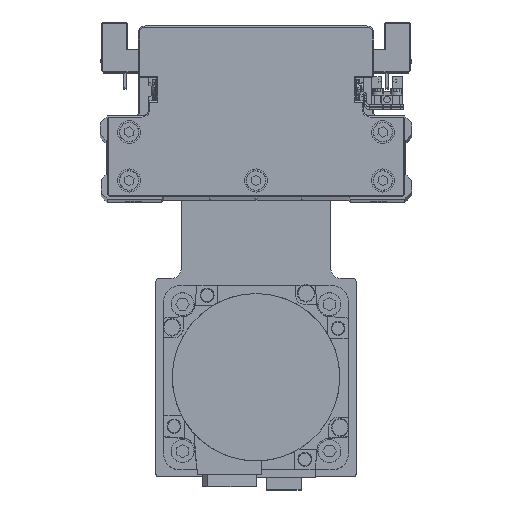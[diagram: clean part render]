
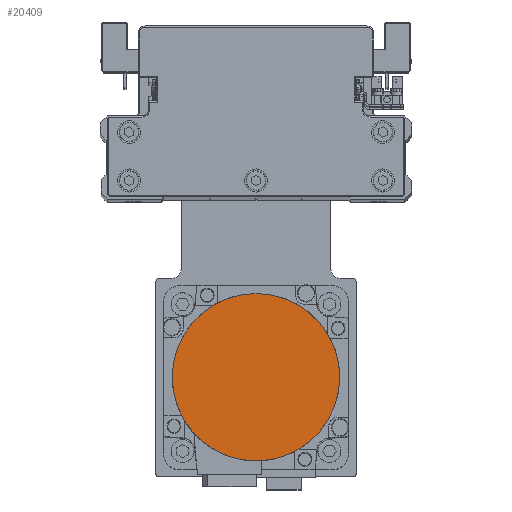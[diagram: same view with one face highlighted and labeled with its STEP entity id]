
A CAD part, top view. The second image highlights one B-rep face of the part: STEP entity #20409.
In plain terms, the highlighted planar face has unit normal (0, 0, 1) as drawn and (0, 0, -1) by its records, which use the part's own axes.
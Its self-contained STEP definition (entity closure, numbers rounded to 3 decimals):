
#7232 = CARTESIAN_POINT ( 'NONE',  ( 0., -36.3, -122.2 ) ) ;
#7710 = AXIS2_PLACEMENT_3D ( 'NONE', #14061, #26407, #38740 ) ;
#8034 = DIRECTION ( 'NONE',  ( 1., 0., 0. ) ) ;
#8897 = ORIENTED_EDGE ( 'NONE', *, *, #15991, .F. ) ;
#11066 = PLANE ( 'NONE',  #34840 ) ;
#12105 = DIRECTION ( 'NONE',  ( 0., 0., 1. ) ) ;
#14061 = CARTESIAN_POINT ( 'NONE',  ( 0., 0., -122.2 ) ) ;
#14749 = EDGE_LOOP ( 'NONE', ( #8897, #16316 ) ) ;
#15991 = EDGE_CURVE ( 'NONE', #30278, #25070, #39561, .T. ) ;
#16316 = ORIENTED_EDGE ( 'NONE', *, *, #38241, .F. ) ;
#20409 = ADVANCED_FACE ( 'NONE', ( #38783 ), #11066, .F. ) ;
#22087 = AXIS2_PLACEMENT_3D ( 'NONE', #39824, #12105, #24444 ) ;
#23406 = CARTESIAN_POINT ( 'NONE',  ( 0., 0., -122.2 ) ) ;
#24444 = DIRECTION ( 'NONE',  ( 0., 1., 0. ) ) ;
#25070 = VERTEX_POINT ( 'NONE', #7232 ) ;
#25178 = CIRCLE ( 'NONE', #7710, 36.3 ) ;
#26407 = DIRECTION ( 'NONE',  ( 0., 0., 1. ) ) ;
#30278 = VERTEX_POINT ( 'NONE', #34264 ) ;
#34264 = CARTESIAN_POINT ( 'NONE',  ( 0., 36.3, -122.2 ) ) ;
#34840 = AXIS2_PLACEMENT_3D ( 'NONE', #23406, #35758, #8034 ) ;
#35758 = DIRECTION ( 'NONE',  ( 0., 0., 1. ) ) ;
#38241 = EDGE_CURVE ( 'NONE', #25070, #30278, #25178, .T. ) ;
#38740 = DIRECTION ( 'NONE',  ( 0., -1., 0. ) ) ;
#38783 = FACE_OUTER_BOUND ( 'NONE', #14749, .T. ) ;
#39561 = CIRCLE ( 'NONE', #22087, 36.3 ) ;
#39824 = CARTESIAN_POINT ( 'NONE',  ( 0., 0., -122.2 ) ) ;
